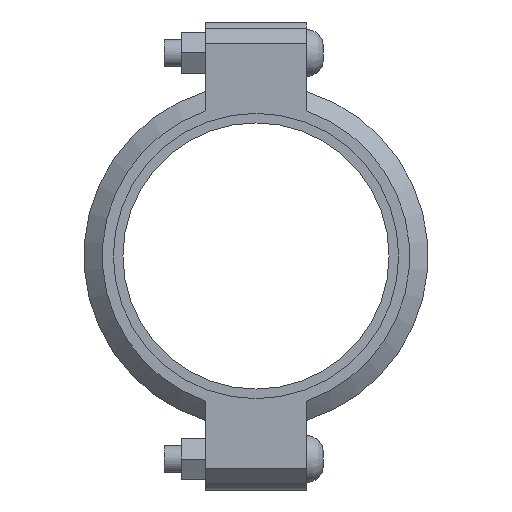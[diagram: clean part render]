
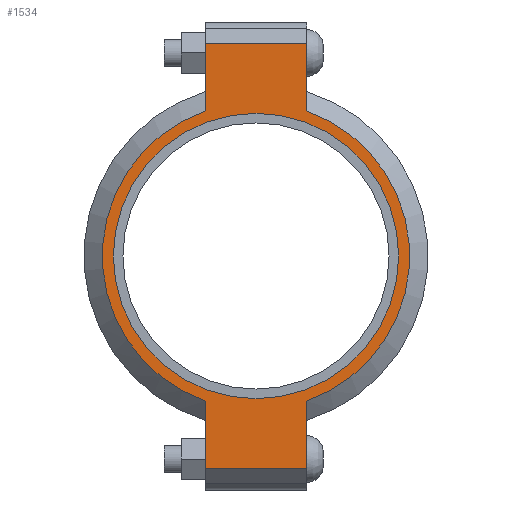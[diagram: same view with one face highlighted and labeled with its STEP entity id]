
A CAD part, left-side view. The second image highlights one B-rep face of the part: STEP entity #1534.
In plain terms, the highlighted planar face has unit normal (-1, 0, 0) as drawn and (0, 0, 1) by its records, which use the part's own axes.
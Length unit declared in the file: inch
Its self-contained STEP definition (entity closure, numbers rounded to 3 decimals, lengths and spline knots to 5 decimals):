
#158=LINE('',#2677,#251);
#166=LINE('',#2713,#259);
#173=LINE('',#2734,#266);
#182=LINE('',#2766,#275);
#183=LINE('',#2770,#276);
#184=LINE('',#2772,#277);
#251=VECTOR('',#2185,0.3937);
#259=VECTOR('',#2201,0.3937);
#266=VECTOR('',#2220,0.3937);
#275=VECTOR('',#2245,0.3937);
#276=VECTOR('',#2250,0.3937);
#277=VECTOR('',#2251,0.3937);
#333=FACE_BOUND('',#511,.T.);
#405=FACE_OUTER_BOUND('',#510,.T.);
#510=EDGE_LOOP('',(#1275,#1276,#1277,#1278,#1279,#1280,#1281,#1282));
#511=EDGE_LOOP('',(#1283));
#583=CIRCLE('',#1753,3.25);
#609=CIRCLE('',#1812,3.5);
#610=CIRCLE('',#1813,3.5);
#675=VERTEX_POINT('',#2493);
#718=VERTEX_POINT('',#2674);
#719=VERTEX_POINT('',#2676);
#730=VERTEX_POINT('',#2708);
#731=VERTEX_POINT('',#2712);
#738=VERTEX_POINT('',#2731);
#739=VERTEX_POINT('',#2733);
#749=VERTEX_POINT('',#2769);
#750=VERTEX_POINT('',#2771);
#831=EDGE_CURVE('',#675,#675,#583,.T.);
#892=EDGE_CURVE('',#719,#718,#158,.T.);
#906=EDGE_CURVE('',#731,#730,#166,.T.);
#916=EDGE_CURVE('',#739,#738,#173,.T.);
#931=EDGE_CURVE('',#731,#718,#182,.T.);
#932=EDGE_CURVE('',#730,#739,#609,.T.);
#933=EDGE_CURVE('',#749,#738,#183,.T.);
#934=EDGE_CURVE('',#749,#750,#184,.T.);
#935=EDGE_CURVE('',#750,#719,#610,.T.);
#1275=ORIENTED_EDGE('',*,*,#931,.F.);
#1276=ORIENTED_EDGE('',*,*,#906,.T.);
#1277=ORIENTED_EDGE('',*,*,#932,.T.);
#1278=ORIENTED_EDGE('',*,*,#916,.T.);
#1279=ORIENTED_EDGE('',*,*,#933,.F.);
#1280=ORIENTED_EDGE('',*,*,#934,.T.);
#1281=ORIENTED_EDGE('',*,*,#935,.T.);
#1282=ORIENTED_EDGE('',*,*,#892,.T.);
#1283=ORIENTED_EDGE('',*,*,#831,.T.);
#1376=PLANE('',#1811);
#1534=ADVANCED_FACE('',(#405,#333),#1376,.T.);
#1753=AXIS2_PLACEMENT_3D('',#2495,#2061,#2062);
#1811=AXIS2_PLACEMENT_3D('',#2767,#2246,#2247);
#1812=AXIS2_PLACEMENT_3D('',#2768,#2248,#2249);
#1813=AXIS2_PLACEMENT_3D('',#2773,#2252,#2253);
#2061=DIRECTION('center_axis',(0.,0.,-1.));
#2062=DIRECTION('ref_axis',(-1.,0.,0.));
#2185=DIRECTION('',(-1.,0.,0.));
#2201=DIRECTION('',(1.,0.,0.));
#2220=DIRECTION('',(1.,0.,0.));
#2245=DIRECTION('',(0.,1.,0.));
#2246=DIRECTION('center_axis',(0.,0.,1.));
#2247=DIRECTION('ref_axis',(1.,0.,0.));
#2248=DIRECTION('center_axis',(0.,0.,1.));
#2249=DIRECTION('ref_axis',(-1.,0.,0.));
#2250=DIRECTION('',(0.,-1.,0.));
#2251=DIRECTION('',(-1.,0.,0.));
#2252=DIRECTION('center_axis',(0.,0.,1.));
#2253=DIRECTION('ref_axis',(-1.,0.,0.));
#2493=CARTESIAN_POINT('',(3.25,0.,1.04));
#2495=CARTESIAN_POINT('Origin',(0.,0.,1.04));
#2674=CARTESIAN_POINT('',(-4.83,1.156,1.04));
#2676=CARTESIAN_POINT('',(-3.30358,1.156,1.04));
#2677=CARTESIAN_POINT('',(-5.33,1.156,1.04));
#2708=CARTESIAN_POINT('',(-3.30358,-1.156,1.04));
#2712=CARTESIAN_POINT('',(-4.83,-1.156,1.04));
#2713=CARTESIAN_POINT('',(5.33,-1.156,1.04));
#2731=CARTESIAN_POINT('',(4.83,-1.156,1.04));
#2733=CARTESIAN_POINT('',(3.30358,-1.156,1.04));
#2734=CARTESIAN_POINT('',(5.33,-1.156,1.04));
#2766=CARTESIAN_POINT('',(-4.83,0.578,1.04));
#2767=CARTESIAN_POINT('Origin',(0.,0.,1.04));
#2768=CARTESIAN_POINT('Origin',(0.,0.,1.04));
#2769=CARTESIAN_POINT('',(4.83,1.156,1.04));
#2770=CARTESIAN_POINT('',(4.83,-0.578,1.04));
#2771=CARTESIAN_POINT('',(3.30358,1.156,1.04));
#2772=CARTESIAN_POINT('',(-5.33,1.156,1.04));
#2773=CARTESIAN_POINT('Origin',(0.,0.,1.04));
